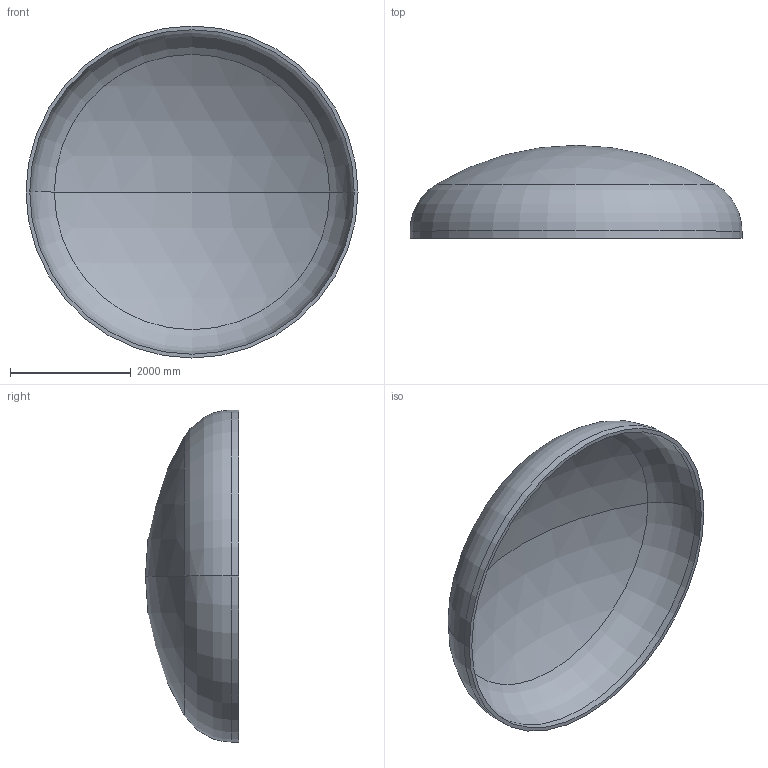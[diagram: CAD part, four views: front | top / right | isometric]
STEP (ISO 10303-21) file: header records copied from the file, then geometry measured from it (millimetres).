
FILE_DESCRIPTION (( 'STEP AP203' ), '1' );
FILE_NAME ('DIN 28013 Korbbogenform_-_Boden DIN 28013 - 5500 x 120 - I - s=62.step', '2016-07-04T10:34:34', ( '' ), ( '' ), 'SwSTEP 2.0', 'SolidWorks 2013', '' );
FILE_SCHEMA (( 'CONFIG_CONTROL_DESIGN' ));
Length unit declared in the file: millimetre
Products named in the file (1): DIN 28013 Korbbogenform_-_Boden DIN 28013 - 5500 x 120 - I - s=62
Bounding box: 5500 x 1542.04 x 5500 mm (x, y, z)
Volume: 2136090552.9 mm3; surface area: 69973378.6 mm2
Topology: 1 solids, 1 shells, 13 faces, 24 edges, 14 vertices
Faces by surface type: torus 4, cylinder 4, sphere 4, plane 1
Entity records: 407 total; most frequent: DIRECTION 72, CARTESIAN_POINT 52, ORIENTED_EDGE 48, AXIS2_PLACEMENT_3D 34, EDGE_CURVE 24, CIRCLE 20, EDGE_LOOP 14, VERTEX_POINT 14
